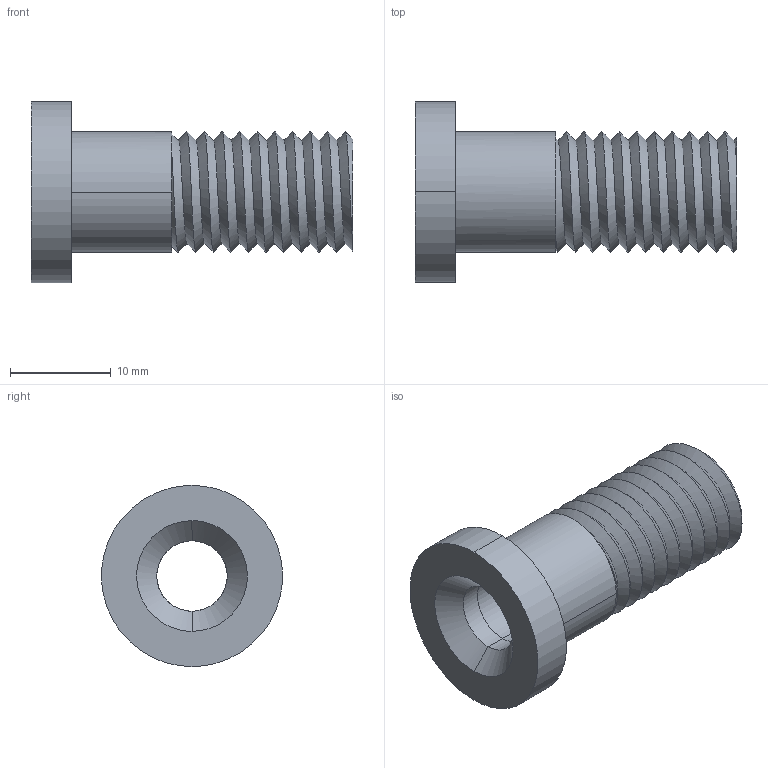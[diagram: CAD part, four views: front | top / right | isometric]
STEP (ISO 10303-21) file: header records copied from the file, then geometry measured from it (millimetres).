
FILE_DESCRIPTION(/* description */ (''),/* implementation_level */ '2;1');
FILE_NAME(/* name */ 'THROUG~1',/* time_stamp */ '2023-11-20T17:42:07+01:00',/* author */ (''),/* organization */ (''),/* preprocessor_version */ 'ST-DEVELOPER v16.5',/* originating_system */ '',/* authorisation */ '');
FILE_SCHEMA (('AUTOMOTIVE_DESIGN'));
Length unit declared in the file: millimetre
Products named in the file (1): Document
Bounding box: 32 x 17.97 x 18 mm (x, y, z)
Volume: 2621.5 mm3; surface area: 2610.3 mm2
Topology: 1 solids, 1 shells, 16 faces, 35 edges, 22 vertices
Faces by surface type: bspline 12, plane 4
Entity records: 4733 total; most frequent: CARTESIAN_POINT 4505, ORIENTED_EDGE 70, EDGE_CURVE 35, VERTEX_POINT 22, EDGE_LOOP 19, ADVANCED_FACE 16, FACE_OUTER_BOUND 16, B_SPLINE_CURVE_WITH_KNOTS 8
